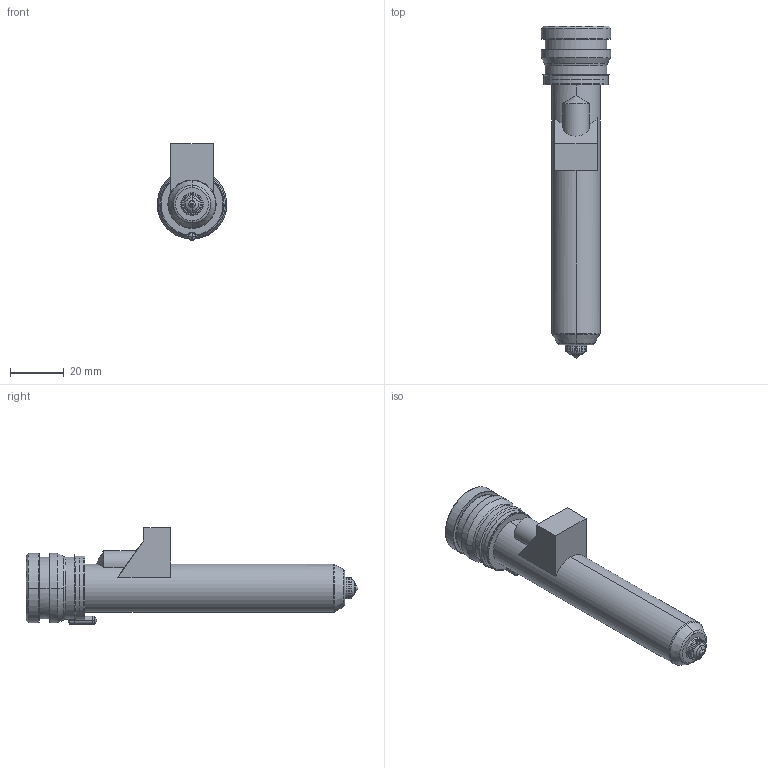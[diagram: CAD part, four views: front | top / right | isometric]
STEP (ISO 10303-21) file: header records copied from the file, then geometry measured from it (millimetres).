
FILE_DESCRIPTION((''),'2;1');
FILE_NAME('TH18106-M-1GLT-PK-JG','2023-12-14T',('umhib'),('Thermoplay S.p.A.'),'PRO/ENGINEER BY PARAMETRIC TECHNOLOGY CORPORATION, 2017170','PRO/ENGINEER BY PARAMETRIC TECHNOLOGY CORPORATION, 2017170','');
FILE_SCHEMA(('CONFIG_CONTROL_DESIGN'));
Length unit declared in the file: millimetre
Products named in the file (1): TH18106-M-1GLT-PK-JG
Bounding box: 26 x 124 x 36.1 mm (x, y, z)
Volume: 26072.2 mm3; surface area: 20170.9 mm2
Topology: 1 solids, 2 shells, 413 faces, 1052 edges, 647 vertices
Faces by surface type: cylinder 160, plane 92, cone 64, torus 64, bspline 22, sphere 9, extrusion 2
Entity records: 16931 total; most frequent: CARTESIAN_POINT 4933, DIRECTION 2166, ORIENTED_EDGE 2078, EDGE_CURVE 1041, AXIS2_PLACEMENT_3D 881, VERTEX_POINT 647, CIRCLE 491, EDGE_LOOP 441
